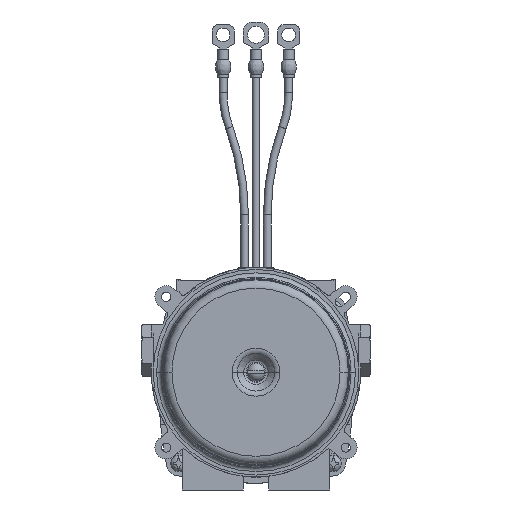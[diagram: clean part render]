
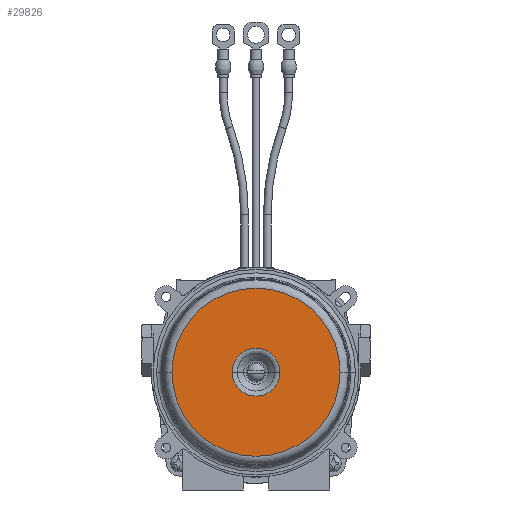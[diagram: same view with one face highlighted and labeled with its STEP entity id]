
A CAD part, front view. The second image highlights one B-rep face of the part: STEP entity #29826.
In plain terms, the highlighted planar face has unit normal (0, -1, 0).
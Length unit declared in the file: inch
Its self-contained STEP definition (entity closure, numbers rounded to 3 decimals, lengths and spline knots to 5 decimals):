
#28791=CARTESIAN_POINT('',(0.,-5.487,0.27));
#28792=DIRECTION('',(0.,-1.,0.));
#28793=DIRECTION('',(-1.,0.,0.));
#28794=AXIS2_PLACEMENT_3D('',#28791,#28792,#28793);
#28796=CARTESIAN_POINT('',(0.,-5.487,0.27));
#28797=DIRECTION('',(0.,-1.,0.));
#28798=DIRECTION('',(1.,0.,0.));
#28799=AXIS2_PLACEMENT_3D('',#28796,#28797,#28798);
#28801=CARTESIAN_POINT('',(0.,-5.487,0.27));
#28802=DIRECTION('',(0.,1.,0.));
#28803=DIRECTION('',(-1.,0.,0.));
#28804=AXIS2_PLACEMENT_3D('',#28801,#28802,#28803);
#28806=CARTESIAN_POINT('',(0.,-5.487,0.27));
#28807=DIRECTION('',(0.,1.,0.));
#28808=DIRECTION('',(1.,0.,0.));
#28809=AXIS2_PLACEMENT_3D('',#28806,#28807,#28808);
#29019=CARTESIAN_POINT('',(0.46582,-5.487,0.27));
#29020=VERTEX_POINT('',#29019);
#29021=CARTESIAN_POINT('',(-0.46582,-5.487,0.27));
#29022=VERTEX_POINT('',#29021);
#29023=CARTESIAN_POINT('',(-1.635,-5.487,0.27));
#29024=CARTESIAN_POINT('',(1.635,-5.487,0.27));
#29025=VERTEX_POINT('',#29023);
#29026=VERTEX_POINT('',#29024);
#29811=CARTESIAN_POINT('',(0.,-5.487,0.27));
#29812=DIRECTION('',(0.,1.,0.));
#29813=DIRECTION('',(-1.,0.,0.));
#29814=AXIS2_PLACEMENT_3D('',#29811,#29812,#29813);
#29815=PLANE('',#29814);
#29816=ORIENTED_EDGE('',*,*,#29806,.F.);
#29817=ORIENTED_EDGE('',*,*,#29790,.F.);
#29818=EDGE_LOOP('',(#29816,#29817));
#29819=FACE_OUTER_BOUND('',#29818,.F.);
#29821=ORIENTED_EDGE('',*,*,#29820,.F.);
#29823=ORIENTED_EDGE('',*,*,#29822,.F.);
#29824=EDGE_LOOP('',(#29821,#29823));
#29825=FACE_BOUND('',#29824,.F.);
#29826=ADVANCED_FACE('',(#29819,#29825),#29815,.F.);
#28795=CIRCLE('',#28794,1.635);
#28800=CIRCLE('',#28799,1.635);
#28805=CIRCLE('',#28804,0.46582);
#28810=CIRCLE('',#28809,0.46582);
#29790=EDGE_CURVE('',#29026,#29025,#28800,.T.);
#29806=EDGE_CURVE('',#29025,#29026,#28795,.T.);
#29820=EDGE_CURVE('',#29022,#29020,#28805,.T.);
#29822=EDGE_CURVE('',#29020,#29022,#28810,.T.);
